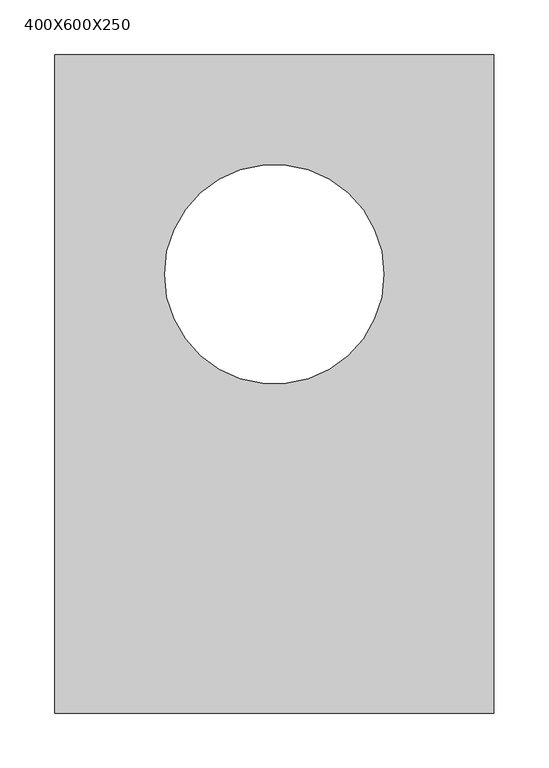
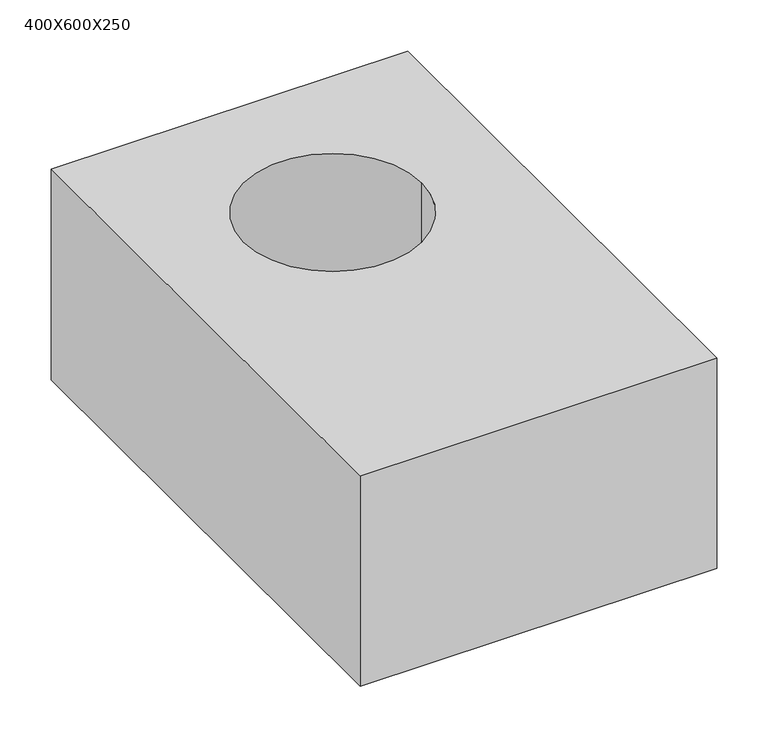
"""IFC4 building model written with IfcOpenShell, lengths in millimetres: plate geometry, GASBETON Evolution Forati : 400X600X250."""

from ifc_helpers import new_model, si_unit, point, frame_2d, origin, origin_with_axes, place, context, project, spatial, polyline, circle_curve, trimmed, segment, composite_curve, outline, extrude, source, transform, mapped, element, save


def plate_400x600x250_09aebfd9(model_context):
    return source(origin(), model_context, "Body", "SweptSolid", [
        extrude(outline(polyline([(200.0, 300.0), (200.0, -300.0), (-200.0, -300.0), (-200.0, 300.0), (200.0, 300.0)]), holes=[composite_curve([segment(trimmed(circle_curve(frame_2d((0.0, 100.0)), 100.0), [point((-100.0, 100.0))], [point((100.0, 100.0))], True, "CARTESIAN"), True, "CONTINUOUS"), segment(trimmed(circle_curve(frame_2d((0.0, 100.0)), 100.0), [point((100.0, 100.0))], [point((-100.0, 100.0))], True, "CARTESIAN"), True, "CONTINUOUS")], self_intersect=False)]), origin_with_axes(), (0.0, 0.0, 1.0), 250.0),
    ])


if __name__ == "__main__":
    model = new_model("IFC4")
    model_context = context("Model", 3, world=origin())
    ifc_project = project(units=[si_unit("LENGTHUNIT", "METRE", prefix="MILLI")], contexts=[model_context])
    site = spatial("IfcSite", under=ifc_project)
    building = spatial("IfcBuilding", under=site)
    placement = place(None, origin())
    plate_400x600x250_shape = plate_400x600x250_09aebfd9(model_context)
    element("IfcPlate", 1, ObjectType="GASBETON Evolution Forati : 400X600X250", at=placement, inside=building, context=model_context, shape_type="MappedRepresentation", body=[
        mapped(plate_400x600x250_shape, transform((0.0, 0.0, 0.0), x_axis=(1.0, 0.0, 0.0), y_axis=(0.0, 1.0, 0.0), z_axis=(0.0, 0.0, 1.0))),
    ])
    save(model, "model.ifc")
